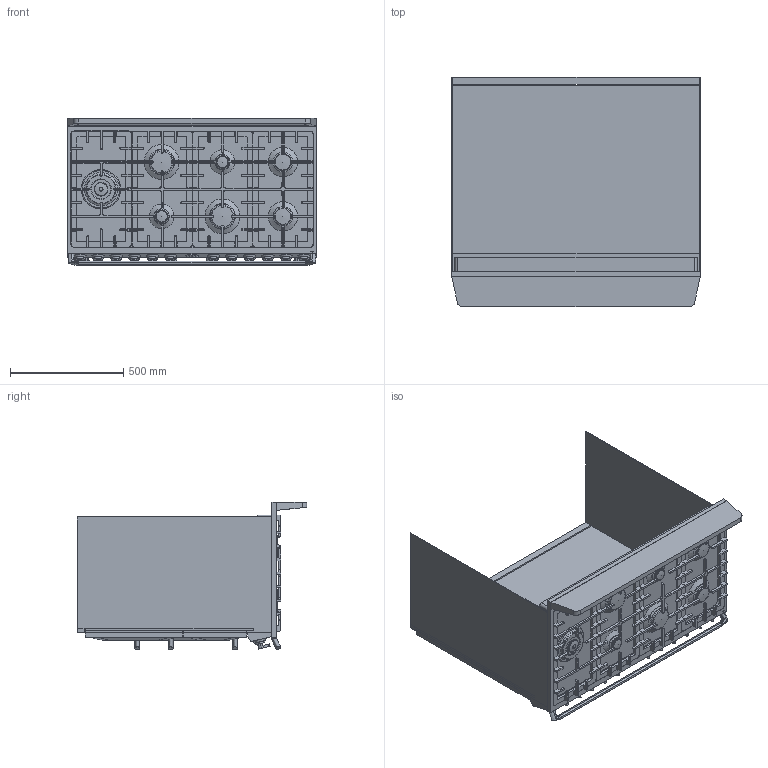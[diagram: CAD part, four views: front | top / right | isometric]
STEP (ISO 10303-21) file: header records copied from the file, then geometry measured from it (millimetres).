
FILE_DESCRIPTION(/* description */ (''),/* implementation_level */ '2;1');
FILE_NAME(/* name */ 'TR4110P.stp',/* time_stamp */ '2012-06-20T15:10:24+02:00',/* author */ (''),/* organization */ (''),/* preprocessor_version */ 'ST-DEVELOPER v11',/* originating_system */ 'SIEMENS PLM Software NX 7.5',/* authorisation */ '');
FILE_SCHEMA (('AUTOMOTIVE_DESIGN { 1 0 10303 214 1 1 1 1 }'));
Products named in the file (1): FIOR8AD5wmpe
Bounding box: 1100 x 1014 x 651.73 mm (x, y, z)
Volume: 81562260 mm3; surface area: 9312498.2 mm2
Topology: 80 solids, 80 shells, 1808 faces, 4673 edges, 3052 vertices
Faces by surface type: plane 965, bspline 320, extrusion 249, cylinder 171, cone 75, torus 24, sphere 4
Full cylindrical faces by diameter (mm): 5 x10, 22 x12, 43.084 x12, 55 x2, 60.611 x1, 65.5 x2, 75 x2, 85.5 x2, 85.7 x1, 100 x2, 110.5 x2, 131 x1, 147 x1
Entity records: 70771 total; most frequent: CARTESIAN_POINT 29969, ORIENTED_EDGE 9056, DIRECTION 6521, EDGE_CURVE 4528, VERTEX_POINT 3036, VECTOR 2811, LINE 2562, EDGE_LOOP 1981
